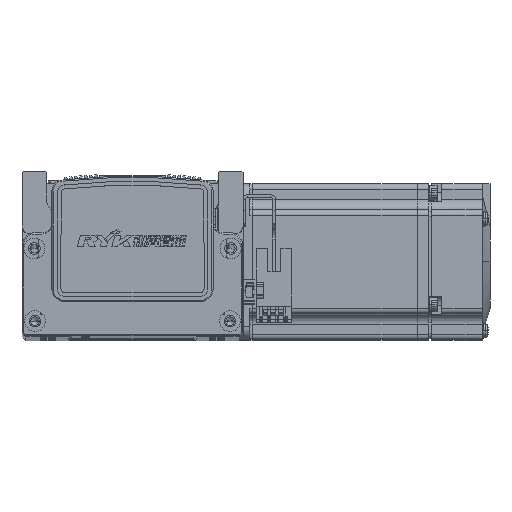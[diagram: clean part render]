
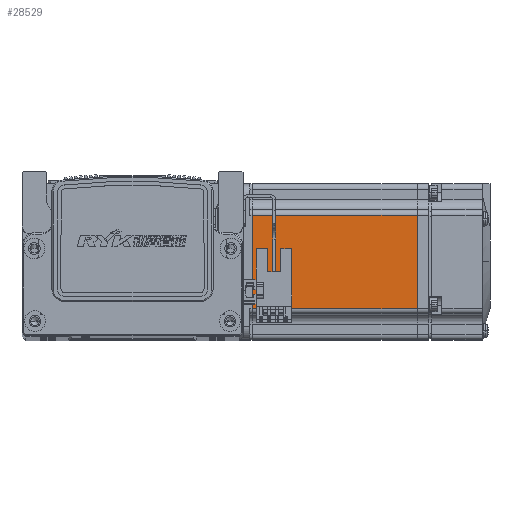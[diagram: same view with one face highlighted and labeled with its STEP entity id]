
A CAD part, top view. The second image highlights one B-rep face of the part: STEP entity #28529.
In plain terms, the highlighted planar face has unit normal (0, 0, 1) as drawn and (0, 0, -1) by its records, which use the part's own axes.
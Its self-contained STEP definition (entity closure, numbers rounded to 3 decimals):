
#1065 = CARTESIAN_POINT ( 'NONE',  ( -7.75, -18., -30. ) ) ;
#1090 = CARTESIAN_POINT ( 'NONE',  ( -7.75, 18., -30. ) ) ;
#1102 = CARTESIAN_POINT ( 'NONE',  ( -70.95, 18., -30. ) ) ;
#1126 = CARTESIAN_POINT ( 'NONE',  ( -70.95, -18., -30. ) ) ;
#4922 = VERTEX_POINT ( 'NONE', #1102 ) ;
#4933 = VERTEX_POINT ( 'NONE', #1126 ) ;
#4947 = VERTEX_POINT ( 'NONE', #1090 ) ;
#4967 = VERTEX_POINT ( 'NONE', #1065 ) ;
#14104 = EDGE_CURVE ( 'NONE', #4933, #4922, #74485, .T. ) ;
#14106 = EDGE_CURVE ( 'NONE', #4967, #4933, #74490, .T. ) ;
#14137 = EDGE_CURVE ( 'NONE', #4947, #4967, #74515, .T. ) ;
#14160 = EDGE_CURVE ( 'NONE', #4922, #4947, #74076, .T. ) ;
#28529 = ADVANCED_FACE ( 'NONE', ( #51828 ), #42118, .T. ) ;
#42105 = DIRECTION ( 'NONE',  ( 0., 0., -1. ) ) ;
#42107 = CARTESIAN_POINT ( 'NONE',  ( -6.5, 25., -30. ) ) ;
#42118 = PLANE ( 'NONE',  #47536 ) ;
#42153 = DIRECTION ( 'NONE',  ( -1., 0., 0. ) ) ;
#47536 = AXIS2_PLACEMENT_3D ( 'NONE', #42107, #42105, #42153 ) ;
#51828 = FACE_OUTER_BOUND ( 'NONE', #72565, .T. ) ;
#64072 = DIRECTION ( 'NONE',  ( 0., 1., 0. ) ) ;
#64080 = CARTESIAN_POINT ( 'NONE',  ( -70.95, 25., -30. ) ) ;
#64097 = CARTESIAN_POINT ( 'NONE',  ( -6.5, -18., -30. ) ) ;
#64098 = DIRECTION ( 'NONE',  ( -1., 0., 0. ) ) ;
#64131 = CARTESIAN_POINT ( 'NONE',  ( -7.75, 25., -30. ) ) ;
#64154 = DIRECTION ( 'NONE',  ( 0., -1., 0. ) ) ;
#64194 = DIRECTION ( 'NONE',  ( 1., 0., 0. ) ) ;
#64226 = CARTESIAN_POINT ( 'NONE',  ( -6.5, 18., -30. ) ) ;
#72565 = EDGE_LOOP ( 'NONE', ( #81193, #81194, #81196, #81213 ) ) ;
#74076 = LINE ( 'NONE', #64226, #74170 ) ;
#74170 = VECTOR ( 'NONE', #64194, 1000. ) ;
#74460 = VECTOR ( 'NONE', #64098, 1000. ) ;
#74485 = LINE ( 'NONE', #64080, #74486 ) ;
#74486 = VECTOR ( 'NONE', #64072, 1000. ) ;
#74490 = LINE ( 'NONE', #64097, #74460 ) ;
#74515 = LINE ( 'NONE', #64131, #74546 ) ;
#74546 = VECTOR ( 'NONE', #64154, 1000. ) ;
#81193 = ORIENTED_EDGE ( 'NONE', *, *, #14137, .T. ) ;
#81194 = ORIENTED_EDGE ( 'NONE', *, *, #14106, .T. ) ;
#81196 = ORIENTED_EDGE ( 'NONE', *, *, #14104, .T. ) ;
#81213 = ORIENTED_EDGE ( 'NONE', *, *, #14160, .T. ) ;
